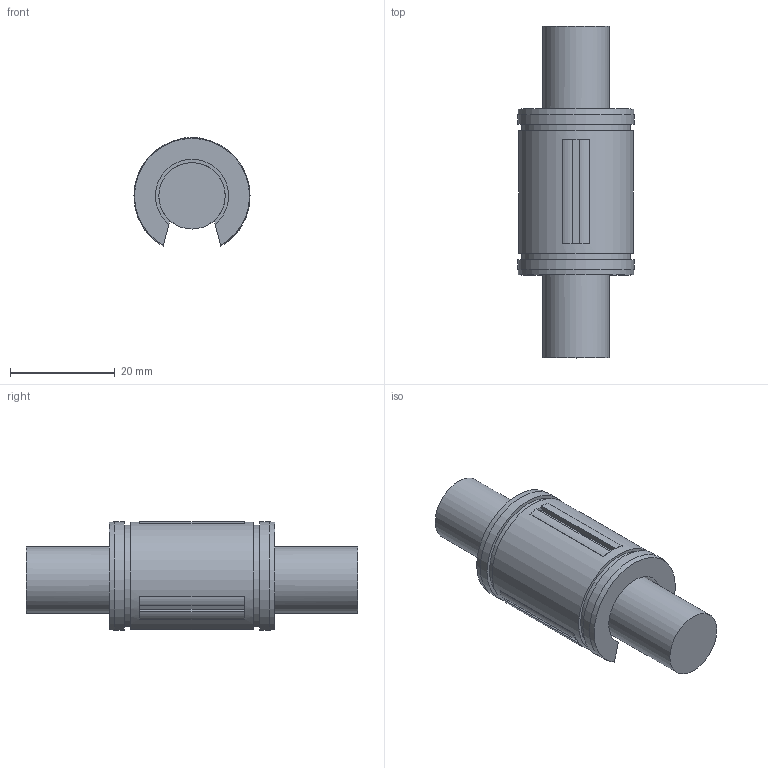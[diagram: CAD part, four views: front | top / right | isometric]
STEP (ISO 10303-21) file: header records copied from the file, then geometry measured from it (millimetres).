
FILE_DESCRIPTION((''),'2;1');
FILE_NAME('D:\STEP\SUPER\LMBS OP\LMBS08_OP.stp','2013-02-14T08:06:06',('user2'),(''),'Autodesk Inventor 2012','Autodesk Inventor 2012','');
FILE_SCHEMA(('AUTOMOTIVE_DESIGN { 1 0 10303 214 1 1 1 1 }'));
Length unit declared in the file: millimetre
Products named in the file (1): LMBS08_OP
Bounding box: 22.23 x 63.5 x 20.75 mm (x, y, z)
Volume: 14263.3 mm3; surface area: 5271.7 mm2
Topology: 1 solids, 1 shells, 61 faces, 156 edges, 100 vertices
Faces by surface type: plane 45, cylinder 14, cone 2
Full cylindrical faces by diameter (mm): 12.7 x1
Entity records: 1862 total; most frequent: DIRECTION 322, CARTESIAN_POINT 320, ORIENTED_EDGE 304, EDGE_CURVE 152, AXIS2_PLACEMENT_3D 112, VERTEX_POINT 98, VECTOR 98, LINE 98
